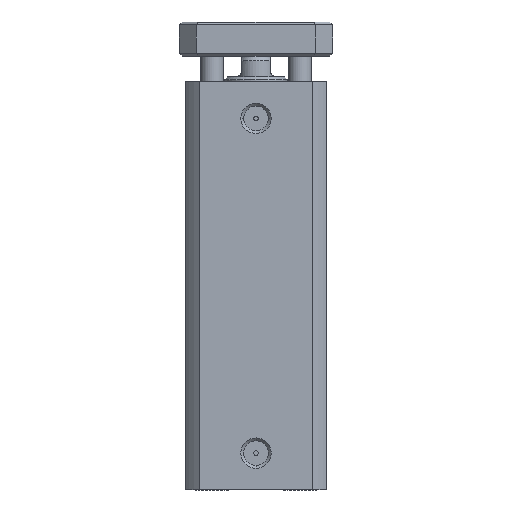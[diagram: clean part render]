
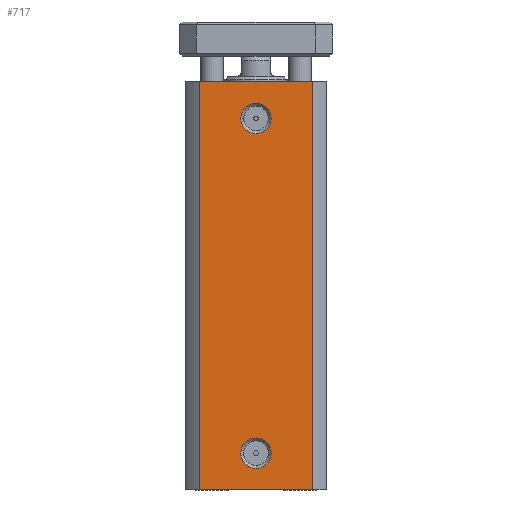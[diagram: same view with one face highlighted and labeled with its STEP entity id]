
A CAD part, front view. The second image highlights one B-rep face of the part: STEP entity #717.
In plain terms, the highlighted planar face has unit normal (0, -1, 0).
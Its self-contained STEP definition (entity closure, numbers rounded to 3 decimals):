
#69 = EDGE_CURVE ( 'NONE', #4682, #4009, #5857, .T. ) ;
#76 = EDGE_CURVE ( 'NONE', #4565, #4466, #5868, .T. ) ;
#434 = EDGE_LOOP ( 'NONE', ( #1811, #1810 ) ) ;
#435 = EDGE_LOOP ( 'NONE', ( #1809, #1808 ) ) ;
#436 = EDGE_LOOP ( 'NONE', ( #1807, #1806, #1805, #1804 ) ) ;
#717 = ADVANCED_FACE ( 'NONE', ( #5307, #5308, #5309 ), #3789, .T. ) ;
#1329 = EDGE_CURVE ( 'NONE', #4547, #4439, #7228, .T. ) ;
#1332 = EDGE_CURVE ( 'NONE', #4439, #4655, #7232, .T. ) ;
#1334 = EDGE_CURVE ( 'NONE', #4655, #4526, #7235, .T. ) ;
#1335 = EDGE_CURVE ( 'NONE', #4526, #4547, #7238, .T. ) ;
#1336 = EDGE_CURVE ( 'NONE', #4009, #4682, #7240, .T. ) ;
#1337 = EDGE_CURVE ( 'NONE', #4466, #4565, #7241, .T. ) ;
#1396 = AXIS2_PLACEMENT_3D ( 'NONE', #4297, #4296, #4295 ) ;
#1399 = AXIS2_PLACEMENT_3D ( 'NONE', #4279, #4277, #4276 ) ;
#1804 = ORIENTED_EDGE ( 'NONE', *, *, #1332, .T. ) ;
#1805 = ORIENTED_EDGE ( 'NONE', *, *, #1329, .T. ) ;
#1806 = ORIENTED_EDGE ( 'NONE', *, *, #1335, .T. ) ;
#1807 = ORIENTED_EDGE ( 'NONE', *, *, #1334, .T. ) ;
#1808 = ORIENTED_EDGE ( 'NONE', *, *, #1336, .T. ) ;
#1809 = ORIENTED_EDGE ( 'NONE', *, *, #69, .T. ) ;
#1810 = ORIENTED_EDGE ( 'NONE', *, *, #1337, .T. ) ;
#1811 = ORIENTED_EDGE ( 'NONE', *, *, #76, .T. ) ;
#2717 = AXIS2_PLACEMENT_3D ( 'NONE', #7030, #7029, #7027 ) ;
#2718 = AXIS2_PLACEMENT_3D ( 'NONE', #7026, #7025, #7023 ) ;
#3786 = DIRECTION ( 'NONE',  ( 0., 0., -1. ) ) ;
#3787 = DIRECTION ( 'NONE',  ( 0., -1., 0. ) ) ;
#3788 = CARTESIAN_POINT ( 'NONE',  ( 9.987, -12.5, -12.5 ) ) ;
#3789 = PLANE ( 'NONE',  #4741 ) ;
#4009 = VERTEX_POINT ( 'NONE', #6317 ) ;
#4276 = DIRECTION ( 'NONE',  ( 1., 0., 0. ) ) ;
#4277 = DIRECTION ( 'NONE',  ( 0., 1., 0. ) ) ;
#4279 = CARTESIAN_POINT ( 'NONE',  ( 0., -12.5, 53. ) ) ;
#4295 = DIRECTION ( 'NONE',  ( 0., 0., -1. ) ) ;
#4296 = DIRECTION ( 'NONE',  ( 0., 1., 0. ) ) ;
#4297 = CARTESIAN_POINT ( 'NONE',  ( 0., -12.5, -6. ) ) ;
#4439 = VERTEX_POINT ( 'NONE', #6238 ) ;
#4466 = VERTEX_POINT ( 'NONE', #6209 ) ;
#4526 = VERTEX_POINT ( 'NONE', #6146 ) ;
#4547 = VERTEX_POINT ( 'NONE', #6123 ) ;
#4565 = VERTEX_POINT ( 'NONE', #6105 ) ;
#4655 = VERTEX_POINT ( 'NONE', #6010 ) ;
#4682 = VERTEX_POINT ( 'NONE', #5980 ) ;
#4741 = AXIS2_PLACEMENT_3D ( 'NONE', #3788, #3787, #3786 ) ;
#5307 = FACE_BOUND ( 'NONE', #434, .T. ) ;
#5308 = FACE_BOUND ( 'NONE', #435, .T. ) ;
#5309 = FACE_OUTER_BOUND ( 'NONE', #436, .T. ) ;
#5857 = CIRCLE ( 'NONE', #1396, 2.667 ) ;
#5868 = CIRCLE ( 'NONE', #1399, 2.667 ) ;
#5980 = CARTESIAN_POINT ( 'NONE',  ( 0., -12.5, -8.667 ) ) ;
#6010 = CARTESIAN_POINT ( 'NONE',  ( -9.987, -12.5, -12.5 ) ) ;
#6105 = CARTESIAN_POINT ( 'NONE',  ( 2.667, -12.5, 53. ) ) ;
#6123 = CARTESIAN_POINT ( 'NONE',  ( 9.987, -12.5, 59.5 ) ) ;
#6146 = CARTESIAN_POINT ( 'NONE',  ( 9.987, -12.5, -12.5 ) ) ;
#6209 = CARTESIAN_POINT ( 'NONE',  ( -2.667, -12.5, 53. ) ) ;
#6238 = CARTESIAN_POINT ( 'NONE',  ( -9.987, -12.5, 59.5 ) ) ;
#6317 = CARTESIAN_POINT ( 'NONE',  ( 0., -12.5, -3.333 ) ) ;
#7023 = DIRECTION ( 'NONE',  ( 1., 0., 0. ) ) ;
#7025 = DIRECTION ( 'NONE',  ( 0., 1., 0. ) ) ;
#7026 = CARTESIAN_POINT ( 'NONE',  ( 0., -12.5, 53. ) ) ;
#7027 = DIRECTION ( 'NONE',  ( 0., 0., -1. ) ) ;
#7029 = DIRECTION ( 'NONE',  ( 0., 1., 0. ) ) ;
#7030 = CARTESIAN_POINT ( 'NONE',  ( 0., -12.5, -6. ) ) ;
#7032 = DIRECTION ( 'NONE',  ( 0., 0., 1. ) ) ;
#7033 = CARTESIAN_POINT ( 'NONE',  ( 9.987, -12.5, -12.5 ) ) ;
#7034 = DIRECTION ( 'NONE',  ( 1., 0., 0. ) ) ;
#7035 = CARTESIAN_POINT ( 'NONE',  ( 9.987, -12.5, -12.5 ) ) ;
#7042 = DIRECTION ( 'NONE',  ( 0., 0., -1. ) ) ;
#7043 = CARTESIAN_POINT ( 'NONE',  ( -9.987, -12.5, -12.5 ) ) ;
#7052 = DIRECTION ( 'NONE',  ( -1., 0., 0. ) ) ;
#7053 = CARTESIAN_POINT ( 'NONE',  ( 9.987, -12.5, 59.5 ) ) ;
#7228 = LINE ( 'NONE', #7053, #7230 ) ;
#7230 = VECTOR ( 'NONE', #7052, 1000. ) ;
#7232 = LINE ( 'NONE', #7043, #7234 ) ;
#7234 = VECTOR ( 'NONE', #7042, 1000. ) ;
#7235 = LINE ( 'NONE', #7035, #7237 ) ;
#7237 = VECTOR ( 'NONE', #7034, 1000. ) ;
#7238 = LINE ( 'NONE', #7033, #7239 ) ;
#7239 = VECTOR ( 'NONE', #7032, 1000. ) ;
#7240 = CIRCLE ( 'NONE', #2717, 2.667 ) ;
#7241 = CIRCLE ( 'NONE', #2718, 2.667 ) ;
